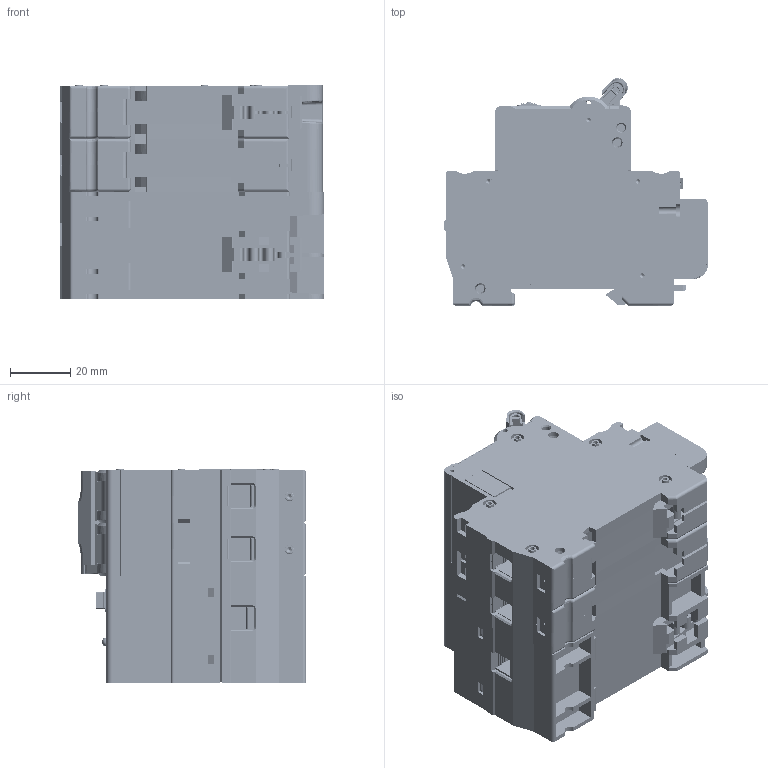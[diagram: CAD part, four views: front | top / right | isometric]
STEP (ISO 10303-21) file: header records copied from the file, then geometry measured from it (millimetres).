
FILE_DESCRIPTION (( 'STEP AP214' ), '1' );
FILE_NAME ('NDB1LE-63Z 2P軞蚾芞.STEP', '2021-04-25T03:28:19', ( '' ), ( '' ), 'SwSTEP 2.0', 'SolidWorks 2018', '' );
FILE_SCHEMA (( 'AUTOMOTIVE_DESIGN' ));
Length unit declared in the file: millimetre
Products named in the file (6): 8LD.302.1038; NDB1LE-63Z 1PN迕諶ん軞蚾芞; NDB1LE-63Z 2P軞蚾芞; NDB1LE-63 2P-剿繚ん軞蚾芞; 8LD.271.1061; 8LD.143.1042
Assembly tree (5 placements, depth 2):
  NDB1LE-63Z 2P軞蚾芞
    NDB1LE-63Z 1PN迕諶ん軞蚾芞
    8LD.302.1038
    8LD.143.1042
    8LD.271.1061
    NDB1LE-63 2P-剿繚ん軞蚾芞
Bounding box: 87.6 x 75.42 x 70.8 mm (x, y, z)
Volume: 140540.2 mm3; surface area: 212985.7 mm2
Topology: 135 solids, 137 shells, 15104 faces, 41922 edges, 27468 vertices
Faces by surface type: plane 9933, cylinder 3242, bspline 1141, cone 521, torus 249, sphere 18
Entity records: 720037 total; most frequent: CARTESIAN_POINT 178122, ORIENTED_EDGE 83710, DIRECTION 70028, EDGE_CURVE 41855, LINE 29896, VECTOR 29896, VERTEX_POINT 27462, AXIS2_PLACEMENT_3D 20066
